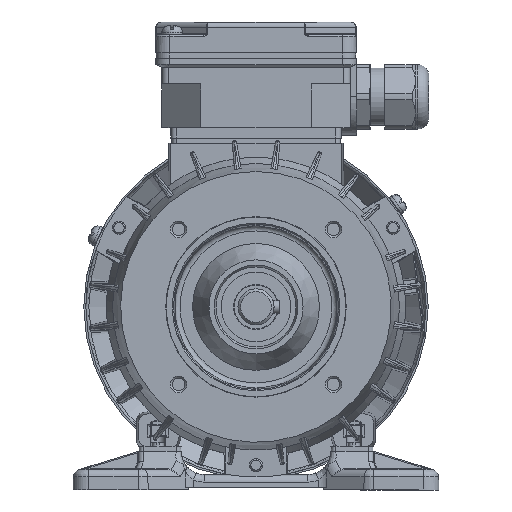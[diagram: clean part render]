
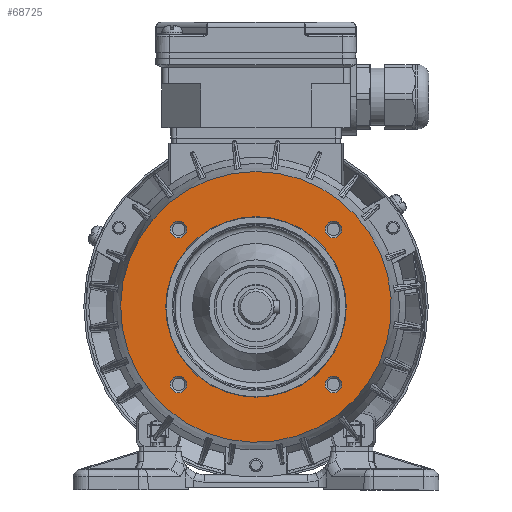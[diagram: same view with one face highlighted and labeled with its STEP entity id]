
A CAD part, front view. The second image highlights one B-rep face of the part: STEP entity #68725.
In plain terms, the highlighted planar face has unit normal (0, -1, 0).
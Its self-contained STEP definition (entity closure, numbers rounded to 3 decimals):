
#20001=ORIENTED_EDGE('',*,*,#29663,.T.);
#20002=ORIENTED_EDGE('',*,*,#29662,.T.);
#20003=ORIENTED_EDGE('',*,*,#29661,.T.);
#20004=ORIENTED_EDGE('',*,*,#29660,.T.);
#20005=ORIENTED_EDGE('',*,*,#29659,.F.);
#20006=ORIENTED_EDGE('',*,*,#30010,.T.);
#29659=EDGE_CURVE('',#35448,#35448,#38614,.T.);
#29660=EDGE_CURVE('',#35449,#35449,#38615,.T.);
#29661=EDGE_CURVE('',#35450,#35450,#38616,.T.);
#29662=EDGE_CURVE('',#35451,#35451,#38617,.T.);
#29663=EDGE_CURVE('',#35452,#35452,#38618,.T.);
#30010=EDGE_CURVE('',#35689,#35689,#38761,.T.);
#35448=VERTEX_POINT('',#106219);
#35449=VERTEX_POINT('',#106222);
#35450=VERTEX_POINT('',#106225);
#35451=VERTEX_POINT('',#106228);
#35452=VERTEX_POINT('',#106231);
#35689=VERTEX_POINT('',#108929);
#38614=CIRCLE('',#72774,35.);
#38615=CIRCLE('',#72776,3.259);
#38616=CIRCLE('',#72778,3.259);
#38617=CIRCLE('',#72780,3.259);
#38618=CIRCLE('',#72782,3.259);
#38761=CIRCLE('',#73011,52.5);
#41531=EDGE_LOOP('',(#20001));
#41532=EDGE_LOOP('',(#20002));
#41533=EDGE_LOOP('',(#20003));
#41534=EDGE_LOOP('',(#20004));
#41535=EDGE_LOOP('',(#20005));
#41536=EDGE_LOOP('',(#20006));
#44797=FACE_BOUND('',#41531,.T.);
#44798=FACE_BOUND('',#41532,.T.);
#44799=FACE_BOUND('',#41533,.T.);
#44800=FACE_BOUND('',#41534,.T.);
#44801=FACE_BOUND('',#41535,.T.);
#44802=FACE_BOUND('',#41536,.T.);
#46499=PLANE('',#73010);
#68725=ADVANCED_FACE('',(#44797,#44798,#44799,#44800,#44801,#44802),#46499,
 .F.);
#72774=AXIS2_PLACEMENT_3D('',#106218,#82653,#82654);
#72776=AXIS2_PLACEMENT_3D('',#106221,#82657,#82658);
#72778=AXIS2_PLACEMENT_3D('',#106224,#82661,#82662);
#72780=AXIS2_PLACEMENT_3D('',#106227,#82665,#82666);
#72782=AXIS2_PLACEMENT_3D('',#106230,#82669,#82670);
#73010=AXIS2_PLACEMENT_3D('',#108927,#83179,#83180);
#73011=AXIS2_PLACEMENT_3D('',#108928,#83181,#83182);
#82653=DIRECTION('',(0.,-1.,0.));
#82654=DIRECTION('',(0.,0.,1.));
#82657=DIRECTION('',(0.,1.,0.));
#82658=DIRECTION('',(1.,0.,0.));
#82661=DIRECTION('',(0.,1.,0.));
#82662=DIRECTION('',(1.,0.,0.));
#82665=DIRECTION('',(0.,1.,0.));
#82666=DIRECTION('',(1.,0.,0.));
#82669=DIRECTION('',(0.,1.,0.));
#82670=DIRECTION('',(1.,0.,0.));
#83179=DIRECTION('',(0.,1.,0.));
#83180=DIRECTION('',(0.,0.,-1.));
#83181=DIRECTION('',(0.,-1.,0.));
#83182=DIRECTION('',(0.,0.,1.));
#106218=CARTESIAN_POINT('',(0.,-90.,0.));
#106219=CARTESIAN_POINT('',(0.,-90.,35.));
#106221=CARTESIAN_POINT('',(30.052,-90.,30.052));
#106222=CARTESIAN_POINT('',(33.311,-90.,30.052));
#106224=CARTESIAN_POINT('',(30.052,-90.,-30.052));
#106225=CARTESIAN_POINT('',(33.311,-90.,-30.052));
#106227=CARTESIAN_POINT('',(-30.052,-90.,-30.052));
#106228=CARTESIAN_POINT('',(-26.794,-90.,-30.052));
#106230=CARTESIAN_POINT('',(-30.052,-90.,30.052));
#106231=CARTESIAN_POINT('',(-26.794,-90.,30.052));
#108927=CARTESIAN_POINT('',(0.,-90.,52.5));
#108928=CARTESIAN_POINT('',(0.,-90.,0.));
#108929=CARTESIAN_POINT('',(0.,-90.,52.5));
